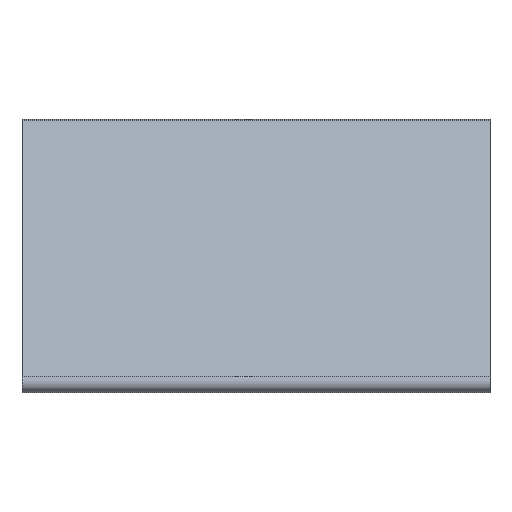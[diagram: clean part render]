
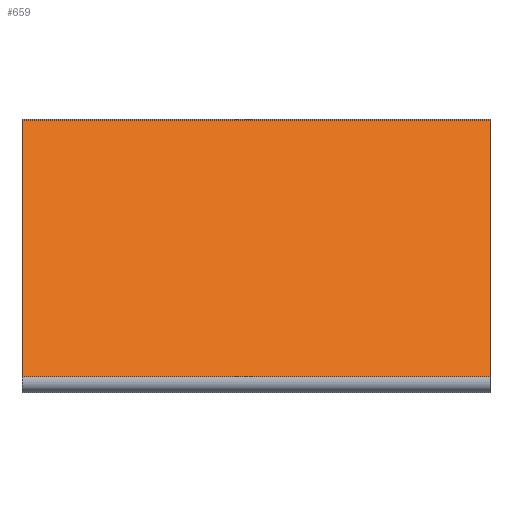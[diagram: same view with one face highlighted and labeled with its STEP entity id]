
A CAD part, left-side view. The second image highlights one B-rep face of the part: STEP entity #659.
In plain terms, the highlighted planar face has unit normal (-0.707, 0, 0.707).
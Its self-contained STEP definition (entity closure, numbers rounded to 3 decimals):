
#158=ORIENTED_EDGE('',*,*,#336,.T.);
#159=ORIENTED_EDGE('',*,*,#337,.F.);
#160=ORIENTED_EDGE('',*,*,#338,.F.);
#161=ORIENTED_EDGE('',*,*,#339,.T.);
#336=EDGE_CURVE('',#418,#419,#478,.T.);
#337=EDGE_CURVE('',#420,#419,#479,.T.);
#338=EDGE_CURVE('',#421,#420,#480,.T.);
#339=EDGE_CURVE('',#421,#418,#481,.T.);
#418=VERTEX_POINT('',#1107);
#419=VERTEX_POINT('',#1108);
#420=VERTEX_POINT('',#1110);
#421=VERTEX_POINT('',#1112);
#478=LINE('',#1106,#538);
#479=LINE('',#1109,#539);
#480=LINE('',#1111,#540);
#481=LINE('',#1113,#541);
#538=VECTOR('',#889,1000.);
#539=VECTOR('',#890,1000.);
#540=VECTOR('',#891,1000.);
#541=VECTOR('',#892,1000.);
#567=EDGE_LOOP('',(#158,#159,#160,#161));
#605=FACE_BOUND('',#567,.T.);
#634=PLANE('',#724);
#659=ADVANCED_FACE('',(#605),#634,.F.);
#724=AXIS2_PLACEMENT_3D('',#1105,#887,#888);
#887=DIRECTION('',(0.707,0.,-0.707));
#888=DIRECTION('',(0.707,0.,0.707));
#889=DIRECTION('',(-0.707,0.,-0.707));
#890=DIRECTION('',(0.,1.,0.));
#891=DIRECTION('',(-0.707,0.,-0.707));
#892=DIRECTION('',(0.,1.,0.));
#1105=CARTESIAN_POINT('',(208.252,-1000.,122.057));
#1106=CARTESIAN_POINT('',(208.252,-1100.,122.057));
#1107=CARTESIAN_POINT('',(208.252,-1100.,122.057));
#1108=CARTESIAN_POINT('',(153.451,-1100.,67.256));
#1109=CARTESIAN_POINT('',(153.451,-1000.,67.256));
#1110=CARTESIAN_POINT('',(153.451,-1200.,67.256));
#1111=CARTESIAN_POINT('',(208.252,-1200.,122.057));
#1112=CARTESIAN_POINT('',(208.252,-1200.,122.057));
#1113=CARTESIAN_POINT('',(208.252,-1000.,122.057));
